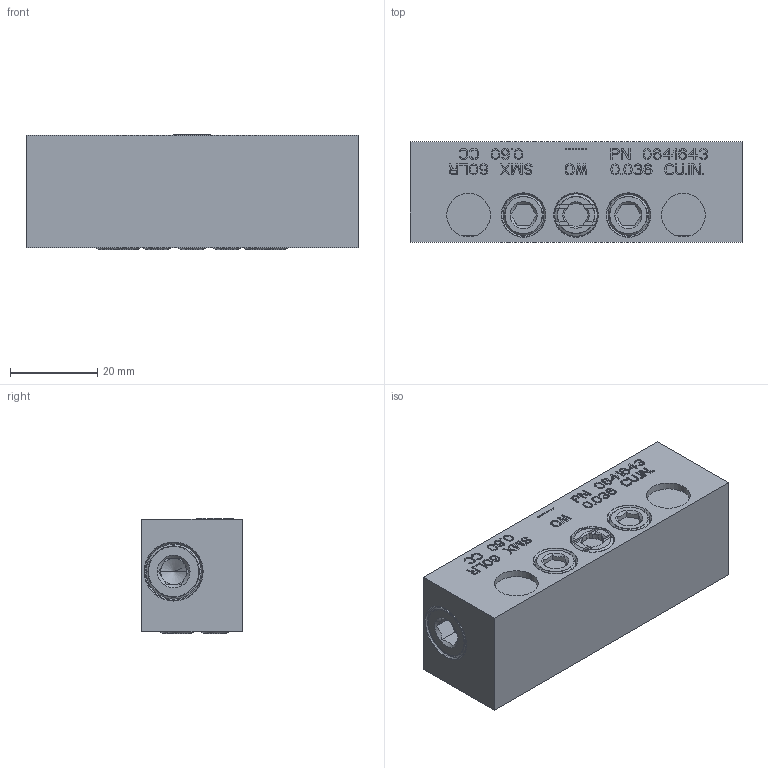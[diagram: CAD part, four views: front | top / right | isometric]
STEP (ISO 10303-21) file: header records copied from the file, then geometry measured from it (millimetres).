
FILE_DESCRIPTION((''),'2;1');
FILE_NAME('0641643_SMX_60LR','2023-07-21T12:04:49',('pietro.masciave'),(''),'CREO PARAMETRIC BY PTC INC, 2022281','CREO PARAMETRIC BY PTC INC, 2022281','');
FILE_SCHEMA(('CONFIG_CONTROL_DESIGN'));
Length unit declared in the file: millimetre
Products named in the file (1): 0641643_SMX_60LR
Bounding box: 76 x 23 x 26.33 mm (x, y, z)
Volume: 43966.5 mm3; surface area: 12632.1 mm2
Topology: 1 solids, 14 shells, 1468 faces, 4076 edges, 2709 vertices
Faces by surface type: plane 1294, cylinder 108, cone 44, torus 22
Entity records: 47252 total; most frequent: CARTESIAN_POINT 9381, ORIENTED_EDGE 8104, DIRECTION 7301, EDGE_CURVE 4072, VECTOR 3643, LINE 3643, VERTEX_POINT 2709, AXIS2_PLACEMENT_3D 1829
